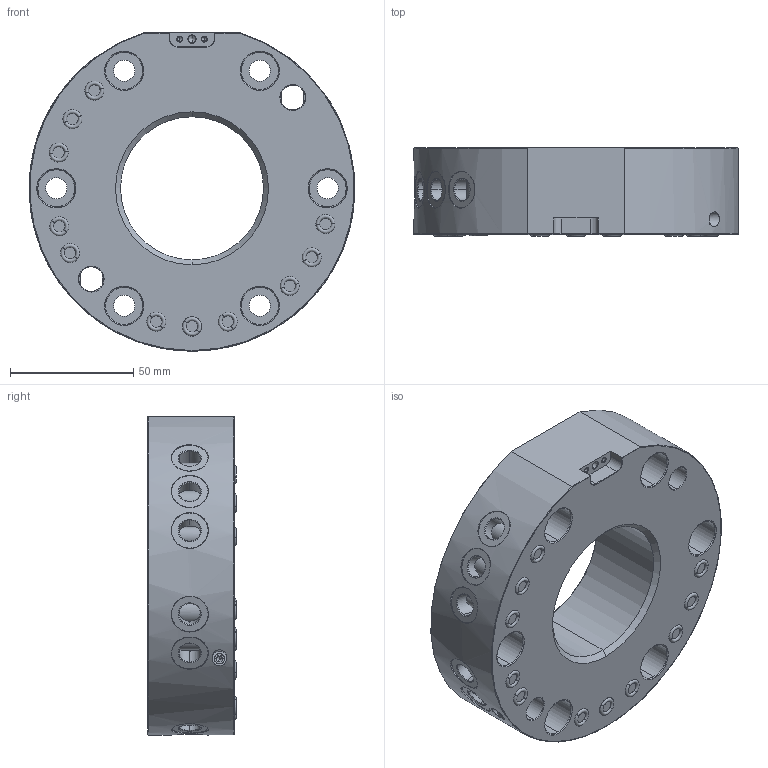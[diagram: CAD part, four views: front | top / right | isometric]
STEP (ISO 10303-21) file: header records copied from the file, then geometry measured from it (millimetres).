
FILE_DESCRIPTION (( 'STEP AP203' ), '1' );
FILE_NAME ('TSKP-T80-00萵攫掛极.STEP', '2021-08-12T09:30:47', ( '' ), ( '' ), 'SwSTEP 2.0', 'SolidWorks 2018', '' );
FILE_SCHEMA (( 'CONFIG_CONTROL_DESIGN' ));
Length unit declared in the file: millimetre
Products named in the file (1): TSKP-T80-00萵攫掛极
Bounding box: 131.73 x 35.75 x 129 mm (x, y, z)
Volume: 346644.8 mm3; surface area: 59539.8 mm2
Topology: 1 solids, 18 shells, 620 faces, 1358 edges, 821 vertices
Faces by surface type: cylinder 210, plane 205, torus 104, cone 101
Entity records: 19139 total; most frequent: CARTESIAN_POINT 5132, DIRECTION 3188, ORIENTED_EDGE 2672, EDGE_CURVE 1336, AXIS2_PLACEMENT_3D 1323, VERTEX_POINT 821, EDGE_LOOP 719, CIRCLE 702
